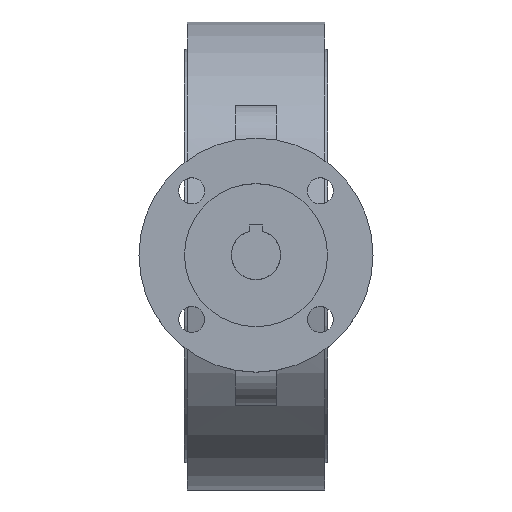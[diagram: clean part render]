
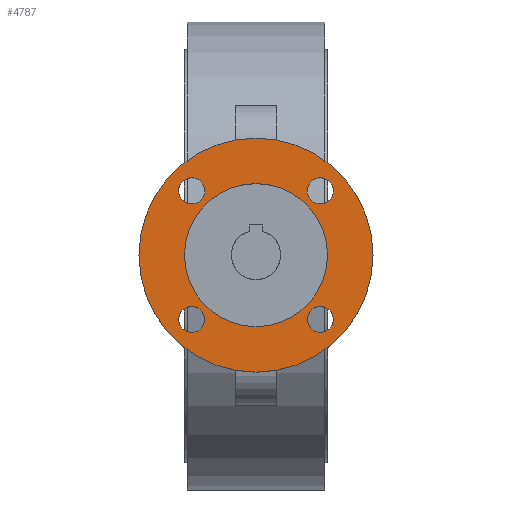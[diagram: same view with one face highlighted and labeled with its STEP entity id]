
A CAD part, top view. The second image highlights one B-rep face of the part: STEP entity #4787.
In plain terms, the highlighted planar face has unit normal (0, 0, 1).
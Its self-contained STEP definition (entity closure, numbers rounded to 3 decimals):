
#4787=ADVANCED_FACE('',(#9490,#9492,#9494,#9496,#9498,#9500),#9502,.T.);
#9490=FACE_BOUND('',#9491,.T.);
#9491=EDGE_LOOP('',(#13333));
#9492=FACE_BOUND('',#9493,.T.);
#9493=EDGE_LOOP('',(#13334));
#9494=FACE_BOUND('',#9495,.T.);
#9495=EDGE_LOOP('',(#13335));
#9496=FACE_BOUND('',#9497,.T.);
#9497=EDGE_LOOP('',(#13336));
#9498=FACE_BOUND('',#9499,.T.);
#9499=EDGE_LOOP('',(#13337));
#9500=FACE_BOUND('',#9501,.T.);
#9501=EDGE_LOOP('',(#13338));
#9502=PLANE('',#9503);
#9503=AXIS2_PLACEMENT_3D('',#9504,#9505,#9506);
#9504=CARTESIAN_POINT('',(0.,0.,190.));
#9505=DIRECTION('',(0.,0.,1.));
#9506=DIRECTION('',(0.,1.,0.));
#13333=ORIENTED_EDGE('',*,*,#15314,.F.);
#13334=ORIENTED_EDGE('',*,*,#15315,.T.);
#13335=ORIENTED_EDGE('',*,*,#15316,.T.);
#13336=ORIENTED_EDGE('',*,*,#15317,.T.);
#13337=ORIENTED_EDGE('',*,*,#15410,.T.);
#13338=ORIENTED_EDGE('',*,*,#15318,.T.);
#15314=EDGE_CURVE('',#18114,#18114,#18115,.T.);
#15315=EDGE_CURVE('',#18116,#18116,#18117,.F.);
#15316=EDGE_CURVE('',#18118,#18118,#18119,.F.);
#15317=EDGE_CURVE('',#18120,#18120,#18121,.F.);
#15318=EDGE_CURVE('',#18122,#18122,#18123,.F.);
#15410=EDGE_CURVE('',#18306,#18306,#18307,.T.);
#18114=VERTEX_POINT('',#25109);
#18115=CIRCLE('',#25110,45.);
#18116=VERTEX_POINT('',#25114);
#18117=CIRCLE('',#25115,5.);
#18118=VERTEX_POINT('',#25119);
#18119=CIRCLE('',#25120,5.);
#18120=VERTEX_POINT('',#25124);
#18121=CIRCLE('',#25125,5.);
#18122=VERTEX_POINT('',#25129);
#18123=CIRCLE('',#25130,5.);
#18306=VERTEX_POINT('',#25611);
#18307=CIRCLE('',#25612,27.5);
#25109=CARTESIAN_POINT('',(0.,45.,190.));
#25110=AXIS2_PLACEMENT_3D('',#25111,#25112,#25113);
#25111=CARTESIAN_POINT('',(0.,0.,190.));
#25112=DIRECTION('',(0.,0.,-1.));
#25113=DIRECTION('',(0.,1.,0.));
#25114=CARTESIAN_POINT('',(-19.749,-24.749,190.));
#25115=AXIS2_PLACEMENT_3D('',#25116,#25117,#25118);
#25116=CARTESIAN_POINT('',(-24.749,-24.749,190.));
#25117=DIRECTION('',(0.,0.,1.));
#25118=DIRECTION('',(1.,0.,0.));
#25119=CARTESIAN_POINT('',(-24.749,19.749,190.));
#25120=AXIS2_PLACEMENT_3D('',#25121,#25122,#25123);
#25121=CARTESIAN_POINT('',(-24.749,24.749,190.));
#25122=DIRECTION('',(0.,0.,1.));
#25123=DIRECTION('',(0.,-1.,0.));
#25124=CARTESIAN_POINT('',(19.749,24.749,190.));
#25125=AXIS2_PLACEMENT_3D('',#25126,#25127,#25128);
#25126=CARTESIAN_POINT('',(24.749,24.749,190.));
#25127=DIRECTION('',(0.,0.,1.));
#25128=DIRECTION('',(-1.,0.,0.));
#25129=CARTESIAN_POINT('',(24.749,-19.749,190.));
#25130=AXIS2_PLACEMENT_3D('',#25131,#25132,#25133);
#25131=CARTESIAN_POINT('',(24.749,-24.749,190.));
#25132=DIRECTION('',(0.,0.,1.));
#25133=DIRECTION('',(0.,1.,0.));
#25611=CARTESIAN_POINT('',(0.,27.5,190.));
#25612=AXIS2_PLACEMENT_3D('',#25613,#25614,#25615);
#25613=CARTESIAN_POINT('',(0.,0.,190.));
#25614=DIRECTION('',(0.,0.,-1.));
#25615=DIRECTION('',(0.,1.,0.));
